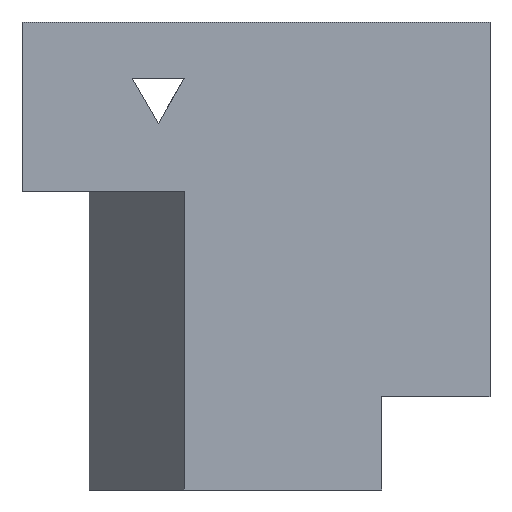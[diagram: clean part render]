
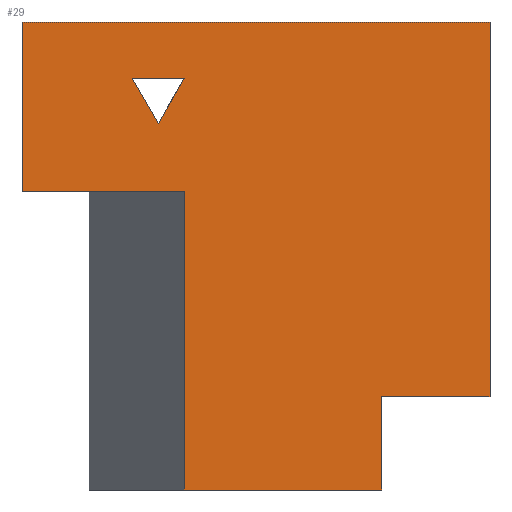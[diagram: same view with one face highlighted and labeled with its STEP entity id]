
A CAD part, left-side view. The second image highlights one B-rep face of the part: STEP entity #29.
In plain terms, the highlighted planar face has unit normal (-1, 0, 0).
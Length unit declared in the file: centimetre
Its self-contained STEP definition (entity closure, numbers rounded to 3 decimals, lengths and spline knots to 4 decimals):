
#11 = VERTEX_POINT ( 'NONE', #705 ) ;
#17 = VECTOR ( 'NONE', #880, 100. ) ;
#20 = ORIENTED_EDGE ( 'NONE', *, *, #164, .T. ) ;
#29 = ADVANCED_FACE ( 'NONE', ( #411, #119 ), #41, .F. ) ;
#40 = CARTESIAN_POINT ( 'NONE',  ( 0., 231.6799, 0. ) ) ;
#41 = PLANE ( 'NONE',  #459 ) ;
#45 = EDGE_CURVE ( 'NONE', #11, #376, #555, .T. ) ;
#50 = CARTESIAN_POINT ( 'NONE',  ( 0., 231.6799, 0. ) ) ;
#62 = EDGE_CURVE ( 'NONE', #343, #11, #429, .T. ) ;
#63 = LINE ( 'NONE', #50, #747 ) ;
#68 = CARTESIAN_POINT ( 'NONE',  ( 0., 653.5776, 0. ) ) ;
#94 = LINE ( 'NONE', #895, #277 ) ;
#100 = ORIENTED_EDGE ( 'NONE', *, *, #493, .F. ) ;
#107 = ORIENTED_EDGE ( 'NONE', *, *, #467, .F. ) ;
#119 = FACE_OUTER_BOUND ( 'NONE', #279, .T. ) ;
#149 = CARTESIAN_POINT ( 'NONE',  ( 0., 0., 198.9499 ) ) ;
#155 = LINE ( 'NONE', #570, #17 ) ;
#163 = VERTEX_POINT ( 'NONE', #265 ) ;
#164 = EDGE_CURVE ( 'NONE', #163, #687, #561, .T. ) ;
#184 = EDGE_CURVE ( 'NONE', #687, #947, #564, .T. ) ;
#187 = EDGE_CURVE ( 'NONE', #227, #818, #719, .T. ) ;
#196 = DIRECTION ( 'NONE',  ( 0., 1., 0. ) ) ;
#208 = CARTESIAN_POINT ( 'NONE',  ( 0., 764.5195, 879.9545 ) ) ;
#213 = CARTESIAN_POINT ( 'NONE',  ( 0., 1000., 1000. ) ) ;
#227 = VERTEX_POINT ( 'NONE', #580 ) ;
#263 = CARTESIAN_POINT ( 'NONE',  ( 0., 0., 1000. ) ) ;
#265 = CARTESIAN_POINT ( 'NONE',  ( 0., 653.5776, 638.0785 ) ) ;
#274 = DIRECTION ( 'NONE',  ( 0., -1., 0. ) ) ;
#277 = VECTOR ( 'NONE', #527, 100. ) ;
#279 = EDGE_LOOP ( 'NONE', ( #100, #20, #287, #884, #314, #107, #739, #812 ) ) ;
#287 = ORIENTED_EDGE ( 'NONE', *, *, #184, .T. ) ;
#311 = EDGE_CURVE ( 'NONE', #376, #343, #312, .T. ) ;
#312 = LINE ( 'NONE', #328, #617 ) ;
#314 = ORIENTED_EDGE ( 'NONE', *, *, #960, .F. ) ;
#316 = DIRECTION ( 'NONE',  ( 0., 0., -1. ) ) ;
#328 = CARTESIAN_POINT ( 'NONE',  ( 0., 653.5776, 879.9545 ) ) ;
#329 = CARTESIAN_POINT ( 'NONE',  ( 0., 708.4216, 783.514 ) ) ;
#343 = VERTEX_POINT ( 'NONE', #208 ) ;
#368 = LINE ( 'NONE', #958, #516 ) ;
#376 = VERTEX_POINT ( 'NONE', #634 ) ;
#391 = VERTEX_POINT ( 'NONE', #149 ) ;
#400 = ORIENTED_EDGE ( 'NONE', *, *, #45, .F. ) ;
#411 = FACE_BOUND ( 'NONE', #717, .T. ) ;
#412 = VERTEX_POINT ( 'NONE', #875 ) ;
#413 = CARTESIAN_POINT ( 'NONE',  ( 0., 653.5776, 638.0785 ) ) ;
#423 = CARTESIAN_POINT ( 'NONE',  ( 0., 1000., 0. ) ) ;
#429 = LINE ( 'NONE', #803, #501 ) ;
#459 = AXIS2_PLACEMENT_3D ( 'NONE', #770, #485, #316 ) ;
#467 = EDGE_CURVE ( 'NONE', #818, #391, #368, .T. ) ;
#485 = DIRECTION ( 'NONE',  ( 1., 0., 0. ) ) ;
#493 = EDGE_CURVE ( 'NONE', #163, #820, #155, .T. ) ;
#501 = VECTOR ( 'NONE', #779, 100. ) ;
#516 = VECTOR ( 'NONE', #678, 100. ) ;
#527 = DIRECTION ( 'NONE',  ( 0., 0., -1. ) ) ;
#530 = VECTOR ( 'NONE', #274, 100. ) ;
#553 = DIRECTION ( 'NONE',  ( 0., 1., 0. ) ) ;
#555 = LINE ( 'NONE', #329, #732 ) ;
#561 = LINE ( 'NONE', #413, #825 ) ;
#564 = LINE ( 'NONE', #423, #942 ) ;
#570 = CARTESIAN_POINT ( 'NONE',  ( 0., 653.5776, 638.0785 ) ) ;
#580 = CARTESIAN_POINT ( 'NONE',  ( 0., 1000., 1000. ) ) ;
#617 = VECTOR ( 'NONE', #553, 100. ) ;
#621 = LINE ( 'NONE', #853, #752 ) ;
#634 = CARTESIAN_POINT ( 'NONE',  ( 0., 653.5776, 879.9545 ) ) ;
#642 = CARTESIAN_POINT ( 'NONE',  ( 0., 1000., 638.0785 ) ) ;
#651 = DIRECTION ( 'NONE',  ( 0., 0., -1. ) ) ;
#678 = DIRECTION ( 'NONE',  ( 0., 0., -1. ) ) ;
#687 = VERTEX_POINT ( 'NONE', #68 ) ;
#705 = CARTESIAN_POINT ( 'NONE',  ( 0., 708.4216, 783.514 ) ) ;
#707 = DIRECTION ( 'NONE',  ( 0., 0., -1. ) ) ;
#717 = EDGE_LOOP ( 'NONE', ( #400, #865, #899 ) ) ;
#719 = LINE ( 'NONE', #213, #530 ) ;
#732 = VECTOR ( 'NONE', #923, 100. ) ;
#739 = ORIENTED_EDGE ( 'NONE', *, *, #187, .F. ) ;
#747 = VECTOR ( 'NONE', #651, 100. ) ;
#752 = VECTOR ( 'NONE', #196, 100. ) ;
#770 = CARTESIAN_POINT ( 'NONE',  ( 0., 1000., 1000. ) ) ;
#779 = DIRECTION ( 'NONE',  ( 0., -0.503, -0.864 ) ) ;
#791 = DIRECTION ( 'NONE',  ( 0., -1., 0. ) ) ;
#803 = CARTESIAN_POINT ( 'NONE',  ( 0., 764.5195, 879.9545 ) ) ;
#812 = ORIENTED_EDGE ( 'NONE', *, *, #903, .T. ) ;
#818 = VERTEX_POINT ( 'NONE', #263 ) ;
#820 = VERTEX_POINT ( 'NONE', #642 ) ;
#823 = EDGE_CURVE ( 'NONE', #412, #947, #63, .T. ) ;
#825 = VECTOR ( 'NONE', #707, 100. ) ;
#853 = CARTESIAN_POINT ( 'NONE',  ( 0., 0., 198.9499 ) ) ;
#865 = ORIENTED_EDGE ( 'NONE', *, *, #62, .F. ) ;
#875 = CARTESIAN_POINT ( 'NONE',  ( 0., 231.6799, 198.9499 ) ) ;
#880 = DIRECTION ( 'NONE',  ( 0., 1., 0. ) ) ;
#884 = ORIENTED_EDGE ( 'NONE', *, *, #823, .F. ) ;
#895 = CARTESIAN_POINT ( 'NONE',  ( 0., 1000., 1000. ) ) ;
#899 = ORIENTED_EDGE ( 'NONE', *, *, #311, .F. ) ;
#903 = EDGE_CURVE ( 'NONE', #227, #820, #94, .T. ) ;
#923 = DIRECTION ( 'NONE',  ( 0., -0.494, 0.869 ) ) ;
#942 = VECTOR ( 'NONE', #791, 100. ) ;
#947 = VERTEX_POINT ( 'NONE', #40 ) ;
#958 = CARTESIAN_POINT ( 'NONE',  ( 0., 0., 1000. ) ) ;
#960 = EDGE_CURVE ( 'NONE', #391, #412, #621, .T. ) ;
